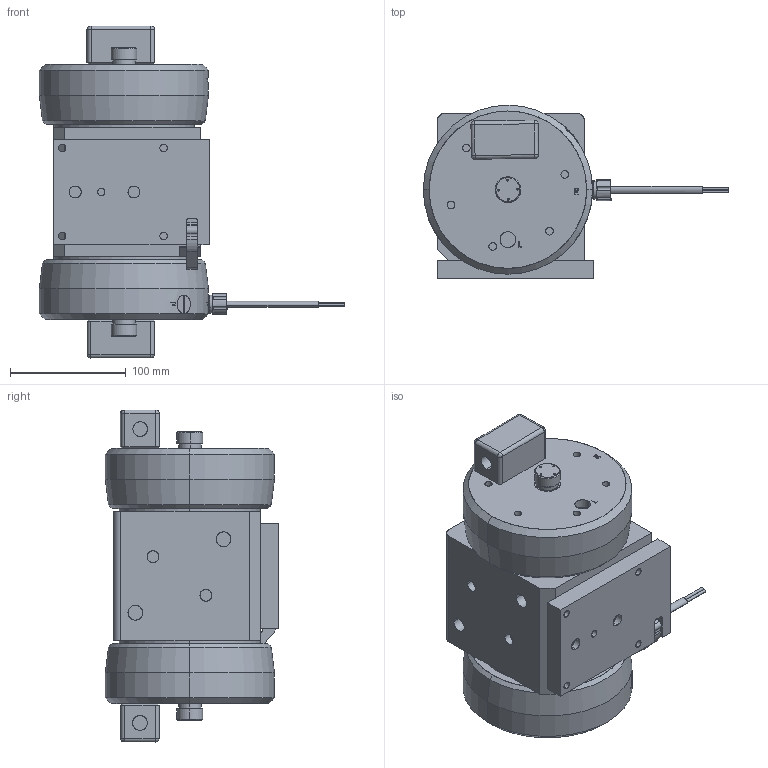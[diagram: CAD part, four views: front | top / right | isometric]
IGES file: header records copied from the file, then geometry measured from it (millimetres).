
Start section: SolidWorks IGES file using analytic representation for surfaces
Global section: file name: S:\Product Visuals\FILES FOR PUBLICATION\SOLID MODELS FOR PUBLICATION\pfh060\pfh-060-solid-model.IGS; native system: SolidWorks 2012; preprocessor: SolidWorks 2012; author: karen.bodily; date: 121121.151730; units: inch
Bounding box: 263.65 x 149.81 x 286.72 mm (x, y, z)
Surface area: 319516.7 mm2 (no closed solid volume)
Topology: 0 solids, 0 shells, 1382 faces, 17025 edges, 17016 vertices
Faces by surface type: bspline 979, revolution 403
